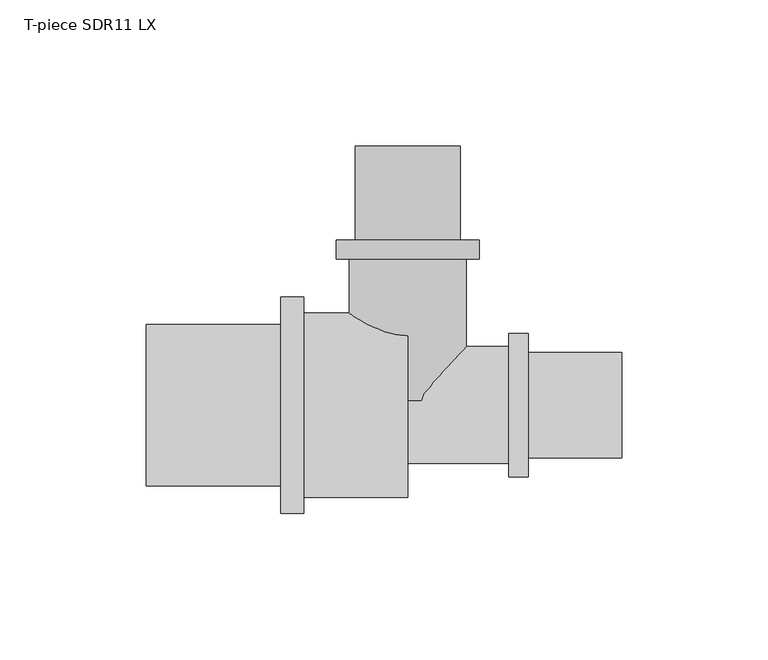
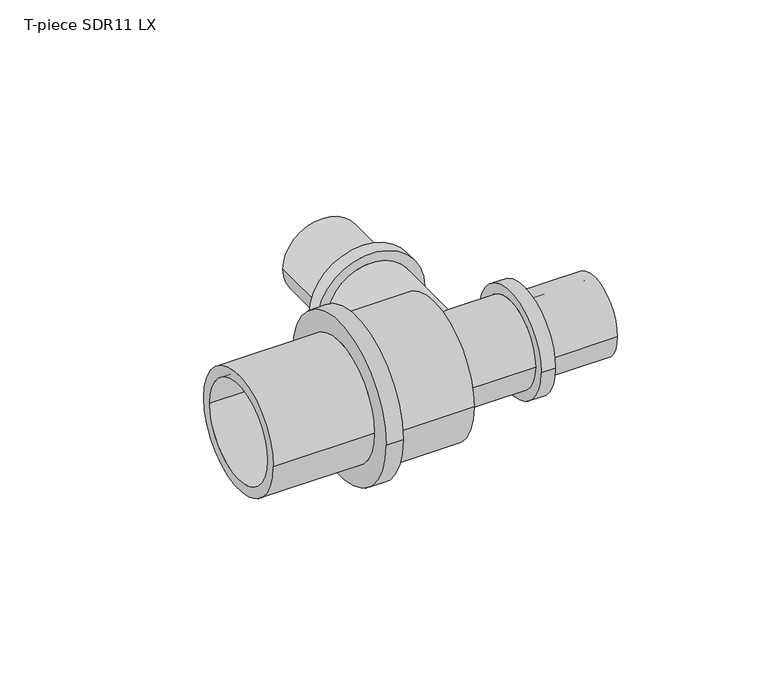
"""IFC4 building model written with IfcOpenShell, lengths in millimetres: pipe fitting geometry, T-piece SDR11 LX : T-piece LX SDR11 LX."""

from ifc_helpers import new_model, si_unit, point, frame, origin, place, context, project, spatial, polyline, circle_curve, ellipse_curve, trimmed, source, transform, mapped, element, save
from ifc_brep_helpers import plane_surface, cylinder_surface, revolved_surface, advanced_brep


def t_piece_sdr11_lx_b9ecea4a(model_context):
    return source(origin(), model_context, "Body", "AdvancedBrep", [
        advanced_brep(
        [(20.0, 1.6236803, 0.0), (-20.0, 1.6236803, 0.0), (-20.0, 50.0, 0.0), (20.0, 50.0, 0.0), (13.75, 88.5, 0.0), (-13.75, 88.5, 0.0), (-13.75, 0.0, 0.0), (13.75, 0.0, 0.0), (18.0, 56.5, 0.0), (-18.0, 56.5, 0.0), (-18.0, 88.5, 0.0), (18.0, 88.5, 0.0), (24.5, 50.0, 0.0), (-24.5, 50.0, 0.0), (-24.5, 56.5, 0.0), (24.5, 56.5, 0.0)],
        [
            (0, 1, circle_curve(frame((0.0, 1.6236803, 0.0), z_axis=(0.0, 1.0, 0.0), x_axis=(-1.0, 0.0, 0.0)), 20.0)),
            (1, 2),
            (2, 3, circle_curve(frame((0.0, 50.0, 0.0), z_axis=(0.0, -1.0, 0.0), x_axis=(-1.0, 0.0, 0.0)), 20.0)),
            (3, 0),
            (4, 5, circle_curve(frame((0.0, 88.5, 0.0), z_axis=(0.0, 1.0, 0.0), x_axis=(-1.0, 0.0, 0.0)), 13.75)),
            (5, 6),
            (6, 7, circle_curve(frame((0.0, 0.0, 0.0), z_axis=(0.0, -1.0, 0.0), x_axis=(-1.0, 0.0, 0.0)), 13.75)),
            (7, 4),
            (8, 9, circle_curve(frame((0.0, 56.5, 0.0), z_axis=(0.0, 1.0, 0.0), x_axis=(-1.0, 0.0, 0.0)), 18.0)),
            (9, 10),
            (10, 11, circle_curve(frame((0.0, 88.5, 0.0), z_axis=(0.0, -1.0, 0.0), x_axis=(-1.0, 0.0, 0.0)), 18.0)),
            (11, 8),
            (12, 13, circle_curve(frame((0.0, 50.0, 0.0), z_axis=(0.0, 1.0, 0.0), x_axis=(-1.0, 0.0, 0.0)), 24.5)),
            (13, 14),
            (14, 15, circle_curve(frame((0.0, 56.5, 0.0), z_axis=(0.0, -1.0, 0.0), x_axis=(-1.0, 0.0, 0.0)), 24.5)),
            (15, 12),
            (12, 13, circle_curve(frame((0.0, 50.0, 0.0), z_axis=(0.0, -1.0, 0.0), x_axis=(1.0, 0.0, 0.0)), 24.5)),
            (2, 3, circle_curve(frame((0.0, 50.0, 0.0), z_axis=(0.0, 1.0, 0.0), x_axis=(1.0, 0.0, 0.0)), 20.0)),
            (1, 0, circle_curve(frame((0.0, 1.6236803, 0.0), z_axis=(0.0, 1.0, 0.0), x_axis=(1.0, 0.0, 0.0)), 20.0)),
            (5, 4, circle_curve(frame((0.0, 88.5, 0.0), z_axis=(0.0, 1.0, 0.0), x_axis=(1.0, 0.0, 0.0)), 13.75)),
            (7, 6, circle_curve(frame((0.0, 0.0, 0.0), z_axis=(0.0, -1.0, 0.0), x_axis=(1.0, 0.0, 0.0)), 13.75)),
            (10, 11, circle_curve(frame((0.0, 88.5, 0.0), z_axis=(0.0, 1.0, 0.0), x_axis=(1.0, 0.0, 0.0)), 18.0)),
            (9, 8, circle_curve(frame((0.0, 56.5, 0.0), z_axis=(0.0, 1.0, 0.0), x_axis=(1.0, 0.0, 0.0)), 18.0)),
            (14, 15, circle_curve(frame((0.0, 56.5, 0.0), z_axis=(0.0, 1.0, 0.0), x_axis=(1.0, 0.0, 0.0)), 24.5)),
            (6, 1, circle_curve(frame((-8.9962802, 31.1392381, 0.0), z_axis=(0.0, 0.0, -1.0), x_axis=(0.0, -1.0, 0.0)), 31.5)),
            (0, 7, circle_curve(frame((8.9962802, 31.1392381, 0.0), z_axis=(0.0, 0.0, -1.0), x_axis=(0.0, -1.0, 0.0)), 31.5)),
        ],
        [
            cylinder_surface(frame((0.0, 0.0, 0.0), z_axis=(0.0, -1.0, 0.0), x_axis=(-1.0, 0.0, 0.0)), 20.0),
            revolved_surface(polyline([(-13.75, 0.0, 0.0), (-13.75, 88.5, 0.0)]), (0.0, 0.0, 0.0), (0.0, -1.0, 0.0)),
            cylinder_surface(frame((0.0, 0.0, 0.0), z_axis=(0.0, -1.0, 0.0), x_axis=(-1.0, 0.0, 0.0)), 18.0),
            cylinder_surface(frame((0.0, 0.0, 0.0), z_axis=(0.0, -1.0, 0.0), x_axis=(-1.0, 0.0, 0.0)), 24.5),
            plane_surface(frame((0.0, 50.0, 0.0), z_axis=(0.0, -1.0, 0.0), x_axis=(1.0, 0.0, 0.0))),
            cylinder_surface(frame((0.0, 0.0, 0.0), z_axis=(0.0, -1.0, 0.0), x_axis=(1.0, 0.0, 0.0)), 20.0),
            revolved_surface(polyline([(13.75, 0.0, 0.0), (13.75, 88.5, 0.0)]), (0.0, 0.0, 0.0), (0.0, -1.0, 0.0)),
            plane_surface(frame((0.0, 88.5, 0.0), z_axis=(0.0, 1.0, 0.0), x_axis=(1.0, 0.0, 0.0))),
            cylinder_surface(frame((0.0, 0.0, 0.0), z_axis=(0.0, -1.0, 0.0), x_axis=(1.0, 0.0, 0.0)), 18.0),
            plane_surface(frame((0.0, 56.5, 0.0), z_axis=(0.0, 1.0, 0.0), x_axis=(1.0, 0.0, 0.0))),
            cylinder_surface(frame((0.0, 0.0, 0.0), z_axis=(0.0, -1.0, 0.0), x_axis=(1.0, 0.0, 0.0)), 24.5),
            revolved_surface(trimmed(ellipse_curve(frame((-8.9962802, 31.1392381, 0.0), z_axis=(0.0, 0.0, 1.0), x_axis=(0.0, -1.0, 0.0)), 31.5, 31.5), [point((-20.0, 1.6236803, 0.0))], [point((-13.75, 0.0, 0.0))], True, "CARTESIAN"), (0.0, 0.0, 0.0), (0.0, -1.0, 0.0)),
            revolved_surface(trimmed(ellipse_curve(frame((8.9962802, 31.1392381, 0.0), z_axis=(0.0, 0.0, -1.0), x_axis=(0.0, -1.0, 0.0)), 31.5, 31.5), [point((20.0, 1.6236803, 0.0))], [point((13.75, 0.0, 0.0))], True, "CARTESIAN"), (0.0, 0.0, 0.0), (0.0, -1.0, 0.0)),
        ],
        [
            (0, [[1, 2, 3, 4]]),
            (1, [[5, 6, 7, 8]]),
            (2, [[9, 10, 11, 12]]),
            (3, [[13, 14, 15, 16]]),
            (4, [[17, -13], [18, -3]]),
            (5, [[19, -4, -18, -2]]),
            (6, [[20, -8, 21, -6]]),
            (7, [[22, -11], [-20, -5]]),
            (8, [[23, -12, -22, -10]]),
            (9, [[24, -15], [-23, -9]]),
            (10, [[-17, -16, -24, -14]]),
            (11, [[-7, 25, -1, 26]]),
            (12, [[-21, -26, -19, -25]]),
        ],
    ),
        advanced_brep(
        [(34.6, 20.0, 0.0), (34.6, -20.0, 0.0), (0.0, -20.0, 0.0), (0.0, 20.0, 0.0), (0.0, 13.75, 0.0), (0.0, -13.75, 0.0), (73.1, -13.75, 0.0), (73.1, 13.75, 0.0), (73.1, 18.0, 0.0), (73.1, -18.0, 0.0), (41.1, -18.0, 0.0), (41.1, 18.0, 0.0), (41.1, 24.5, 0.0), (41.1, -24.5, 0.0), (34.6, -24.5, 0.0), (34.6, 24.5, 0.0)],
        [
            (0, 1, circle_curve(frame((34.6, 0.0, 0.0), z_axis=(-1.0, 0.0, 0.0), x_axis=(0.0, -1.0, 0.0)), 20.0)),
            (1, 2),
            (2, 3, circle_curve(frame((0.0, 0.0, 0.0), z_axis=(1.0, 0.0, 0.0), x_axis=(0.0, -1.0, 0.0)), 20.0)),
            (3, 0),
            (4, 5, circle_curve(frame((0.0, 0.0, 0.0), z_axis=(-1.0, 0.0, 0.0), x_axis=(0.0, -1.0, 0.0)), 13.75)),
            (5, 6),
            (6, 7, circle_curve(frame((73.1, 0.0, 0.0), z_axis=(1.0, 0.0, 0.0), x_axis=(0.0, -1.0, 0.0)), 13.75)),
            (7, 4),
            (8, 9, circle_curve(frame((73.1, 0.0, 0.0), z_axis=(-1.0, 0.0, 0.0), x_axis=(0.0, -1.0, 0.0)), 18.0)),
            (9, 10),
            (10, 11, circle_curve(frame((41.1, 0.0, 0.0), z_axis=(1.0, 0.0, 0.0), x_axis=(0.0, -1.0, 0.0)), 18.0)),
            (11, 8),
            (12, 13, circle_curve(frame((41.1, 0.0, 0.0), z_axis=(-1.0, 0.0, 0.0), x_axis=(0.0, -1.0, 0.0)), 24.5)),
            (13, 14),
            (14, 15, circle_curve(frame((34.6, 0.0, 0.0), z_axis=(1.0, 0.0, 0.0), x_axis=(0.0, -1.0, 0.0)), 24.5)),
            (15, 12),
            (14, 15, circle_curve(frame((34.6, 0.0, 0.0), z_axis=(-1.0, 0.0, 0.0), x_axis=(0.0, 1.0, 0.0)), 24.5)),
            (0, 1, circle_curve(frame((34.6, 0.0, 0.0), z_axis=(1.0, 0.0, 0.0), x_axis=(0.0, 1.0, 0.0)), 20.0)),
            (3, 2, circle_curve(frame((0.0, 0.0, 0.0), z_axis=(1.0, 0.0, 0.0), x_axis=(0.0, 1.0, 0.0)), 20.0)),
            (4, 5, circle_curve(frame((0.0, 0.0, 0.0), z_axis=(1.0, 0.0, 0.0), x_axis=(0.0, 1.0, 0.0)), 13.75)),
            (7, 6, circle_curve(frame((73.1, 0.0, 0.0), z_axis=(1.0, 0.0, 0.0), x_axis=(0.0, 1.0, 0.0)), 13.75)),
            (8, 9, circle_curve(frame((73.1, 0.0, 0.0), z_axis=(1.0, 0.0, 0.0), x_axis=(0.0, 1.0, 0.0)), 18.0)),
            (11, 10, circle_curve(frame((41.1, 0.0, 0.0), z_axis=(1.0, 0.0, 0.0), x_axis=(0.0, 1.0, 0.0)), 18.0)),
            (12, 13, circle_curve(frame((41.1, 0.0, 0.0), z_axis=(1.0, 0.0, 0.0), x_axis=(0.0, 1.0, 0.0)), 24.5)),
        ],
        [
            cylinder_surface(frame((0.0, 0.0, 0.0), z_axis=(1.0, 0.0, 0.0), x_axis=(0.0, -1.0, 0.0)), 20.0),
            revolved_surface(polyline([(73.1, -13.75, 0.0), (0.0, -13.75, 0.0)]), (0.0, 0.0, 0.0), (1.0, 0.0, 0.0)),
            cylinder_surface(frame((0.0, 0.0, 0.0), z_axis=(1.0, 0.0, 0.0), x_axis=(0.0, -1.0, 0.0)), 18.0),
            cylinder_surface(frame((0.0, 0.0, 0.0), z_axis=(1.0, 0.0, 0.0), x_axis=(0.0, -1.0, 0.0)), 24.5),
            plane_surface(frame((34.6, 0.0, 0.0), z_axis=(-1.0, 0.0, 0.0), x_axis=(0.0, 1.0, 0.0))),
            cylinder_surface(frame((0.0, 0.0, 0.0), z_axis=(1.0, 0.0, 0.0), x_axis=(0.0, 1.0, 0.0)), 20.0),
            plane_surface(frame((0.0, 0.0, 0.0), z_axis=(-1.0, 0.0, 0.0), x_axis=(0.0, 1.0, 0.0))),
            revolved_surface(polyline([(73.1, 13.75, 0.0), (0.0, 13.75, 0.0)]), (0.0, 0.0, 0.0), (1.0, 0.0, 0.0)),
            plane_surface(frame((73.1, 0.0, 0.0), z_axis=(1.0, 0.0, 0.0), x_axis=(0.0, 1.0, 0.0))),
            cylinder_surface(frame((0.0, 0.0, 0.0), z_axis=(1.0, 0.0, 0.0), x_axis=(0.0, 1.0, 0.0)), 18.0),
            plane_surface(frame((41.1, 0.0, 0.0), z_axis=(1.0, 0.0, 0.0), x_axis=(0.0, 1.0, 0.0))),
            cylinder_surface(frame((0.0, 0.0, 0.0), z_axis=(1.0, 0.0, 0.0), x_axis=(0.0, 1.0, 0.0)), 24.5),
        ],
        [
            (0, [[1, 2, 3, 4]]),
            (1, [[5, 6, 7, 8]]),
            (2, [[9, 10, 11, 12]]),
            (3, [[13, 14, 15, 16]]),
            (4, [[17, -15], [18, -1]]),
            (5, [[-18, -4, 19, -2]]),
            (6, [[-19, -3], [20, -5]]),
            (7, [[-20, -8, 21, -6]]),
            (8, [[22, -9], [-21, -7]]),
            (9, [[-22, -12, 23, -10]]),
            (10, [[24, -13], [-23, -11]]),
            (11, [[-24, -16, -17, -14]]),
        ],
    ),
        advanced_brep(
        [(0.0, 31.5, 0.0), (0.0, -31.5, 0.0), (-35.5, -31.5, 0.0), (-35.5, 31.5, 0.0), (-89.3, 22.75, 0.0), (-89.3, -22.75, 0.0), (0.0, -22.75, 0.0), (0.0, 22.75, 0.0), (-43.3, 27.55, 0.0), (-43.3, -27.55, 0.0), (-89.3, -27.55, 0.0), (-89.3, 27.55, 0.0), (-35.5, 37.0, 0.0), (-35.5, -37.0, 0.0), (-43.3, -37.0, 0.0), (-43.3, 37.0, 0.0)],
        [
            (0, 1, circle_curve(frame((0.0, 0.0, 0.0), z_axis=(-1.0, 0.0, 0.0), x_axis=(0.0, -1.0, 0.0)), 31.5)),
            (1, 2),
            (2, 3, circle_curve(frame((-35.5, 0.0, 0.0), z_axis=(1.0, 0.0, 0.0), x_axis=(0.0, -1.0, 0.0)), 31.5)),
            (3, 0),
            (4, 5, circle_curve(frame((-89.3, 0.0, 0.0), z_axis=(-1.0, 0.0, 0.0), x_axis=(0.0, -1.0, 0.0)), 22.75)),
            (5, 6),
            (6, 7, circle_curve(frame((0.0, 0.0, 0.0), z_axis=(1.0, 0.0, 0.0), x_axis=(0.0, -1.0, 0.0)), 22.75)),
            (7, 4),
            (8, 9, circle_curve(frame((-43.3, 0.0, 0.0), z_axis=(-1.0, 0.0, 0.0), x_axis=(0.0, -1.0, 0.0)), 27.55)),
            (9, 10),
            (10, 11, circle_curve(frame((-89.3, 0.0, 0.0), z_axis=(1.0, 0.0, 0.0), x_axis=(0.0, -1.0, 0.0)), 27.55)),
            (11, 8),
            (12, 13, circle_curve(frame((-35.5, 0.0, 0.0), z_axis=(-1.0, 0.0, 0.0), x_axis=(0.0, -1.0, 0.0)), 37.0)),
            (13, 14),
            (14, 15, circle_curve(frame((-43.3, 0.0, 0.0), z_axis=(1.0, 0.0, 0.0), x_axis=(0.0, -1.0, 0.0)), 37.0)),
            (15, 12),
            (12, 13, circle_curve(frame((-35.5, 0.0, 0.0), z_axis=(1.0, 0.0, 0.0), x_axis=(0.0, 1.0, 0.0)), 37.0)),
            (2, 3, circle_curve(frame((-35.5, 0.0, 0.0), z_axis=(-1.0, 0.0, 0.0), x_axis=(0.0, 1.0, 0.0)), 31.5)),
            (1, 0, circle_curve(frame((0.0, 0.0, 0.0), z_axis=(-1.0, 0.0, 0.0), x_axis=(0.0, 1.0, 0.0)), 31.5)),
            (6, 7, circle_curve(frame((0.0, 0.0, 0.0), z_axis=(-1.0, 0.0, 0.0), x_axis=(0.0, 1.0, 0.0)), 22.75)),
            (5, 4, circle_curve(frame((-89.3, 0.0, 0.0), z_axis=(-1.0, 0.0, 0.0), x_axis=(0.0, 1.0, 0.0)), 22.75)),
            (10, 11, circle_curve(frame((-89.3, 0.0, 0.0), z_axis=(-1.0, 0.0, 0.0), x_axis=(0.0, 1.0, 0.0)), 27.55)),
            (9, 8, circle_curve(frame((-43.3, 0.0, 0.0), z_axis=(-1.0, 0.0, 0.0), x_axis=(0.0, 1.0, 0.0)), 27.55)),
            (14, 15, circle_curve(frame((-43.3, 0.0, 0.0), z_axis=(-1.0, 0.0, 0.0), x_axis=(0.0, 1.0, 0.0)), 37.0)),
        ],
        [
            cylinder_surface(frame((0.0, 0.0, 0.0), z_axis=(1.0, 0.0, 0.0), x_axis=(0.0, -1.0, 0.0)), 31.5),
            revolved_surface(polyline([(0.0, -22.75, 0.0), (-89.3, -22.75, 0.0)]), (0.0, 0.0, 0.0), (1.0, 0.0, 0.0)),
            cylinder_surface(frame((0.0, 0.0, 0.0), z_axis=(1.0, 0.0, 0.0), x_axis=(0.0, -1.0, 0.0)), 27.55),
            cylinder_surface(frame((0.0, 0.0, 0.0), z_axis=(1.0, 0.0, 0.0), x_axis=(0.0, -1.0, 0.0)), 37.0),
            plane_surface(frame((-35.5, 0.0, 0.0), z_axis=(1.0, 0.0, 0.0), x_axis=(0.0, 1.0, 0.0))),
            cylinder_surface(frame((0.0, 0.0, 0.0), z_axis=(1.0, 0.0, 0.0), x_axis=(0.0, 1.0, 0.0)), 31.5),
            plane_surface(frame((0.0, 0.0, 0.0), z_axis=(1.0, 0.0, 0.0), x_axis=(0.0, 1.0, 0.0))),
            revolved_surface(polyline([(0.0, 22.75, 0.0), (-89.3, 22.75, 0.0)]), (0.0, 0.0, 0.0), (1.0, 0.0, 0.0)),
            plane_surface(frame((-89.3, 0.0, 0.0), z_axis=(-1.0, 0.0, 0.0), x_axis=(0.0, 1.0, 0.0))),
            cylinder_surface(frame((0.0, 0.0, 0.0), z_axis=(1.0, 0.0, 0.0), x_axis=(0.0, 1.0, 0.0)), 27.55),
            plane_surface(frame((-43.3, 0.0, 0.0), z_axis=(-1.0, 0.0, 0.0), x_axis=(0.0, 1.0, 0.0))),
            cylinder_surface(frame((0.0, 0.0, 0.0), z_axis=(1.0, 0.0, 0.0), x_axis=(0.0, 1.0, 0.0)), 37.0),
        ],
        [
            (0, [[1, 2, 3, 4]]),
            (1, [[5, 6, 7, 8]]),
            (2, [[9, 10, 11, 12]]),
            (3, [[13, 14, 15, 16]]),
            (4, [[17, -13], [18, -3]]),
            (5, [[19, -4, -18, -2]]),
            (6, [[-19, -1], [20, -7]]),
            (7, [[21, -8, -20, -6]]),
            (8, [[22, -11], [-21, -5]]),
            (9, [[23, -12, -22, -10]]),
            (10, [[24, -15], [-23, -9]]),
            (11, [[-17, -16, -24, -14]]),
        ],
    ),
    ])


if __name__ == "__main__":
    model = new_model("IFC4")
    model_context = context("Model", 3, world=origin())
    ifc_project = project(units=[si_unit("LENGTHUNIT", "METRE", prefix="MILLI")], contexts=[model_context])
    site = spatial("IfcSite", under=ifc_project)
    building = spatial("IfcBuilding", under=site)
    placement = place(None, origin())
    t_piece_sdr11_lx_shape = t_piece_sdr11_lx_b9ecea4a(model_context)
    element("IfcPipeFitting", 1, ObjectType="T-piece SDR11 LX : T-piece LX SDR11 LX", at=placement, inside=building, context=model_context, shape_type="MappedRepresentation", body=[
        mapped(t_piece_sdr11_lx_shape, transform((0.0, 0.0, 0.0), x_axis=(1.0, 0.0, 0.0), y_axis=(0.0, 1.0, 0.0), z_axis=(0.0, 0.0, 1.0))),
    ])
    save(model, "model.ifc")
